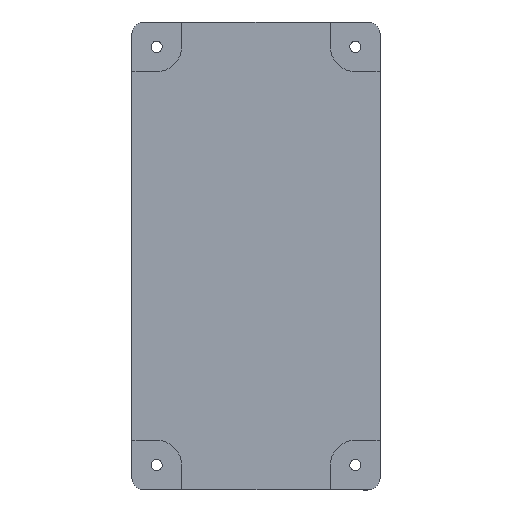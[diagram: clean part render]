
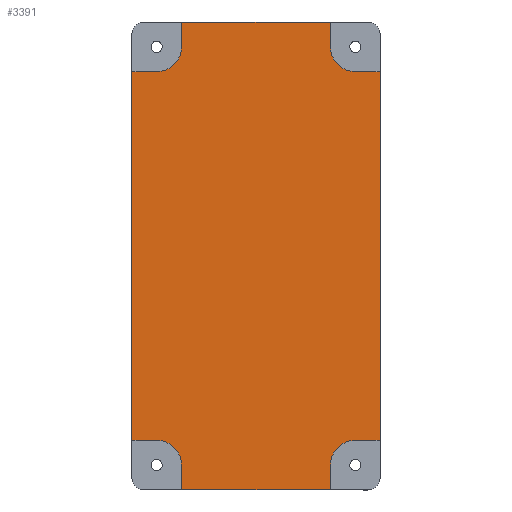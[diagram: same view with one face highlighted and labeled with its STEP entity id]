
A CAD part, top view. The second image highlights one B-rep face of the part: STEP entity #3391.
In plain terms, the highlighted planar face has unit normal (0, 0, 1) as drawn and (0, -1, 0) by its records, which use the part's own axes.
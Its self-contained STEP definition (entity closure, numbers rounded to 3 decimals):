
#18 = EDGE_CURVE ( 'NONE', #1032, #4844, #2263, .T. ) ;
#31 = DIRECTION ( 'NONE',  ( 0., 0., 1. ) ) ;
#67 = VECTOR ( 'NONE', #3129, 1000. ) ;
#77 = CARTESIAN_POINT ( 'NONE',  ( -188.5, 0., 60. ) ) ;
#89 = LINE ( 'NONE', #497, #5369 ) ;
#128 = VECTOR ( 'NONE', #5235, 1000. ) ;
#147 = EDGE_CURVE ( 'NONE', #4954, #1255, #89, .T. ) ;
#235 = EDGE_LOOP ( 'NONE', ( #3991, #1809, #3879, #5250, #4800, #3749, #2378, #4739, #5310, #1998, #4019, #2761, #534, #3513, #5434, #4250 ) ) ;
#240 = FACE_OUTER_BOUND ( 'NONE', #235, .T. ) ;
#242 = VERTEX_POINT ( 'NONE', #5435 ) ;
#249 = DIRECTION ( 'NONE',  ( 0., 0., 1. ) ) ;
#346 = DIRECTION ( 'NONE',  ( 0., -1., 0. ) ) ;
#469 = CIRCLE ( 'NONE', #4425, 20. ) ;
#484 = CARTESIAN_POINT ( 'NONE',  ( 188.5, 0., 100. ) ) ;
#497 = CARTESIAN_POINT ( 'NONE',  ( 188.5, 0., 60. ) ) ;
#510 = VERTEX_POINT ( 'NONE', #5110 ) ;
#534 = ORIENTED_EDGE ( 'NONE', *, *, #1820, .F. ) ;
#539 = EDGE_CURVE ( 'NONE', #1535, #510, #2230, .T. ) ;
#567 = LINE ( 'NONE', #3199, #3241 ) ;
#691 = CARTESIAN_POINT ( 'NONE',  ( -168.5, 0., 80. ) ) ;
#720 = LINE ( 'NONE', #3396, #4164 ) ;
#728 = CARTESIAN_POINT ( 'NONE',  ( -168.5, 0., -80. ) ) ;
#743 = CARTESIAN_POINT ( 'NONE',  ( -148.5, 0., 100. ) ) ;
#767 = EDGE_CURVE ( 'NONE', #4844, #1629, #720, .T. ) ;
#793 = EDGE_CURVE ( 'NONE', #799, #2067, #1405, .T. ) ;
#799 = VERTEX_POINT ( 'NONE', #1265 ) ;
#933 = DIRECTION ( 'NONE',  ( -1., 0., 0. ) ) ;
#987 = CIRCLE ( 'NONE', #3737, 20. ) ;
#1032 = VERTEX_POINT ( 'NONE', #2108 ) ;
#1065 = DIRECTION ( 'NONE',  ( 0., 0., -1. ) ) ;
#1169 = DIRECTION ( 'NONE',  ( 0., 0., 1. ) ) ;
#1179 = VECTOR ( 'NONE', #3160, 1000. ) ;
#1214 = EDGE_CURVE ( 'NONE', #242, #799, #2660, .T. ) ;
#1235 = DIRECTION ( 'NONE',  ( 0., 0., 1. ) ) ;
#1240 = VERTEX_POINT ( 'NONE', #1830 ) ;
#1255 = VERTEX_POINT ( 'NONE', #2719 ) ;
#1265 = CARTESIAN_POINT ( 'NONE',  ( 168.5, 0., -60. ) ) ;
#1405 = CIRCLE ( 'NONE', #4526, 20. ) ;
#1528 = EDGE_CURVE ( 'NONE', #1255, #242, #4343, .T. ) ;
#1535 = VERTEX_POINT ( 'NONE', #4874 ) ;
#1629 = VERTEX_POINT ( 'NONE', #77 ) ;
#1761 = CIRCLE ( 'NONE', #4870, 20. ) ;
#1809 = ORIENTED_EDGE ( 'NONE', *, *, #4679, .F. ) ;
#1818 = DIRECTION ( 'NONE',  ( 0., 0., -1. ) ) ;
#1820 = EDGE_CURVE ( 'NONE', #1629, #1954, #5507, .T. ) ;
#1830 = CARTESIAN_POINT ( 'NONE',  ( -148.5, 0., 80. ) ) ;
#1835 = CARTESIAN_POINT ( 'NONE',  ( -188.5, 0., -60. ) ) ;
#1858 = DIRECTION ( 'NONE',  ( 1., 0., 0. ) ) ;
#1876 = CARTESIAN_POINT ( 'NONE',  ( -148.5, 0., -100. ) ) ;
#1944 = CARTESIAN_POINT ( 'NONE',  ( 148.5, 0., 80. ) ) ;
#1954 = VERTEX_POINT ( 'NONE', #3932 ) ;
#1986 = CARTESIAN_POINT ( 'NONE',  ( 148.5, 0., -100. ) ) ;
#1998 = ORIENTED_EDGE ( 'NONE', *, *, #3464, .F. ) ;
#2015 = EDGE_CURVE ( 'NONE', #510, #1032, #469, .T. ) ;
#2022 = EDGE_CURVE ( 'NONE', #3394, #4954, #1761, .T. ) ;
#2067 = VERTEX_POINT ( 'NONE', #2107 ) ;
#2090 = CARTESIAN_POINT ( 'NONE',  ( -148.5, 0., 100. ) ) ;
#2103 = CARTESIAN_POINT ( 'NONE',  ( 168.5, 0., -80. ) ) ;
#2107 = CARTESIAN_POINT ( 'NONE',  ( 148.5, 0., -80. ) ) ;
#2108 = CARTESIAN_POINT ( 'NONE',  ( -168.5, 0., -60. ) ) ;
#2157 = LINE ( 'NONE', #3543, #5005 ) ;
#2230 = LINE ( 'NONE', #1876, #3237 ) ;
#2263 = LINE ( 'NONE', #3206, #67 ) ;
#2272 = VECTOR ( 'NONE', #1818, 1000. ) ;
#2378 = ORIENTED_EDGE ( 'NONE', *, *, #147, .F. ) ;
#2481 = DIRECTION ( 'NONE',  ( 0., -1., 0. ) ) ;
#2533 = DIRECTION ( 'NONE',  ( 1., 0., 0. ) ) ;
#2541 = VERTEX_POINT ( 'NONE', #1986 ) ;
#2660 = LINE ( 'NONE', #2743, #3552 ) ;
#2719 = CARTESIAN_POINT ( 'NONE',  ( 188.5, 0., 60. ) ) ;
#2743 = CARTESIAN_POINT ( 'NONE',  ( 188.5, 0., -60. ) ) ;
#2757 = EDGE_CURVE ( 'NONE', #3908, #3394, #567, .T. ) ;
#2761 = ORIENTED_EDGE ( 'NONE', *, *, #4072, .F. ) ;
#2775 = LINE ( 'NONE', #5321, #1179 ) ;
#2778 = VERTEX_POINT ( 'NONE', #743 ) ;
#2821 = CARTESIAN_POINT ( 'NONE',  ( 148.5, 0., 100. ) ) ;
#2901 = PLANE ( 'NONE',  #5452 ) ;
#3129 = DIRECTION ( 'NONE',  ( -1., 0., 0. ) ) ;
#3160 = DIRECTION ( 'NONE',  ( -1., 0., 0. ) ) ;
#3199 = CARTESIAN_POINT ( 'NONE',  ( 148.5, 0., 100. ) ) ;
#3206 = CARTESIAN_POINT ( 'NONE',  ( -188.5, 0., -60. ) ) ;
#3237 = VECTOR ( 'NONE', #31, 1000. ) ;
#3241 = VECTOR ( 'NONE', #1065, 1000. ) ;
#3362 = CARTESIAN_POINT ( 'NONE',  ( -188.5, 0., 60. ) ) ;
#3375 = DIRECTION ( 'NONE',  ( 0., 0., 1. ) ) ;
#3391 = ADVANCED_FACE ( 'NONE', ( #240 ), #2901, .F. ) ;
#3394 = VERTEX_POINT ( 'NONE', #1944 ) ;
#3396 = CARTESIAN_POINT ( 'NONE',  ( -188.5, 0., 100. ) ) ;
#3431 = EDGE_CURVE ( 'NONE', #1240, #2778, #3500, .T. ) ;
#3464 = EDGE_CURVE ( 'NONE', #2778, #3908, #5648, .T. ) ;
#3472 = CARTESIAN_POINT ( 'NONE',  ( 188.5, 0., 100. ) ) ;
#3500 = LINE ( 'NONE', #2090, #128 ) ;
#3513 = ORIENTED_EDGE ( 'NONE', *, *, #767, .F. ) ;
#3543 = CARTESIAN_POINT ( 'NONE',  ( 148.5, 0., -100. ) ) ;
#3552 = VECTOR ( 'NONE', #933, 1000. ) ;
#3623 = VECTOR ( 'NONE', #5204, 1000. ) ;
#3737 = AXIS2_PLACEMENT_3D ( 'NONE', #691, #4196, #249 ) ;
#3749 = ORIENTED_EDGE ( 'NONE', *, *, #1528, .F. ) ;
#3879 = ORIENTED_EDGE ( 'NONE', *, *, #4175, .F. ) ;
#3908 = VERTEX_POINT ( 'NONE', #2821 ) ;
#3932 = CARTESIAN_POINT ( 'NONE',  ( -168.5, 0., 60. ) ) ;
#3991 = ORIENTED_EDGE ( 'NONE', *, *, #539, .F. ) ;
#4019 = ORIENTED_EDGE ( 'NONE', *, *, #3431, .F. ) ;
#4072 = EDGE_CURVE ( 'NONE', #1954, #1240, #987, .T. ) ;
#4164 = VECTOR ( 'NONE', #1235, 1000. ) ;
#4175 = EDGE_CURVE ( 'NONE', #2067, #2541, #2157, .T. ) ;
#4196 = DIRECTION ( 'NONE',  ( 0., -1., 0. ) ) ;
#4250 = ORIENTED_EDGE ( 'NONE', *, *, #2015, .F. ) ;
#4294 = DIRECTION ( 'NONE',  ( 0., -1., 0. ) ) ;
#4343 = LINE ( 'NONE', #484, #2272 ) ;
#4425 = AXIS2_PLACEMENT_3D ( 'NONE', #728, #346, #3375 ) ;
#4526 = AXIS2_PLACEMENT_3D ( 'NONE', #2103, #2481, #5606 ) ;
#4561 = CARTESIAN_POINT ( 'NONE',  ( 0., 0., 0. ) ) ;
#4644 = DIRECTION ( 'NONE',  ( 0., 1., 0. ) ) ;
#4664 = CARTESIAN_POINT ( 'NONE',  ( 168.5, 0., 80. ) ) ;
#4679 = EDGE_CURVE ( 'NONE', #2541, #1535, #2775, .T. ) ;
#4739 = ORIENTED_EDGE ( 'NONE', *, *, #2022, .F. ) ;
#4800 = ORIENTED_EDGE ( 'NONE', *, *, #1214, .F. ) ;
#4841 = DIRECTION ( 'NONE',  ( 0., 0., -1. ) ) ;
#4844 = VERTEX_POINT ( 'NONE', #1835 ) ;
#4870 = AXIS2_PLACEMENT_3D ( 'NONE', #4664, #4294, #5138 ) ;
#4874 = CARTESIAN_POINT ( 'NONE',  ( -148.5, 0., -100. ) ) ;
#4954 = VERTEX_POINT ( 'NONE', #5383 ) ;
#5005 = VECTOR ( 'NONE', #4841, 1000. ) ;
#5110 = CARTESIAN_POINT ( 'NONE',  ( -148.5, 0., -80. ) ) ;
#5138 = DIRECTION ( 'NONE',  ( 0., 0., -1. ) ) ;
#5198 = VECTOR ( 'NONE', #2533, 1000. ) ;
#5204 = DIRECTION ( 'NONE',  ( 1., 0., 0. ) ) ;
#5235 = DIRECTION ( 'NONE',  ( 0., 0., 1. ) ) ;
#5250 = ORIENTED_EDGE ( 'NONE', *, *, #793, .F. ) ;
#5310 = ORIENTED_EDGE ( 'NONE', *, *, #2757, .F. ) ;
#5321 = CARTESIAN_POINT ( 'NONE',  ( 188.5, 0., -100. ) ) ;
#5369 = VECTOR ( 'NONE', #1858, 1000. ) ;
#5383 = CARTESIAN_POINT ( 'NONE',  ( 168.5, 0., 60. ) ) ;
#5434 = ORIENTED_EDGE ( 'NONE', *, *, #18, .F. ) ;
#5435 = CARTESIAN_POINT ( 'NONE',  ( 188.5, 0., -60. ) ) ;
#5452 = AXIS2_PLACEMENT_3D ( 'NONE', #4561, #4644, #1169 ) ;
#5507 = LINE ( 'NONE', #3362, #5198 ) ;
#5606 = DIRECTION ( 'NONE',  ( 0., 0., -1. ) ) ;
#5648 = LINE ( 'NONE', #3472, #3623 ) ;
